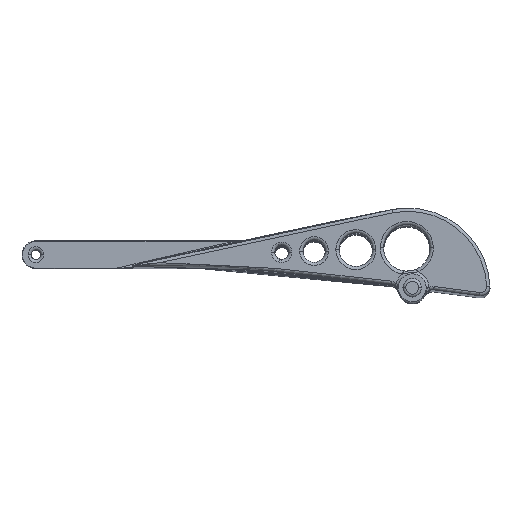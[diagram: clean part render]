
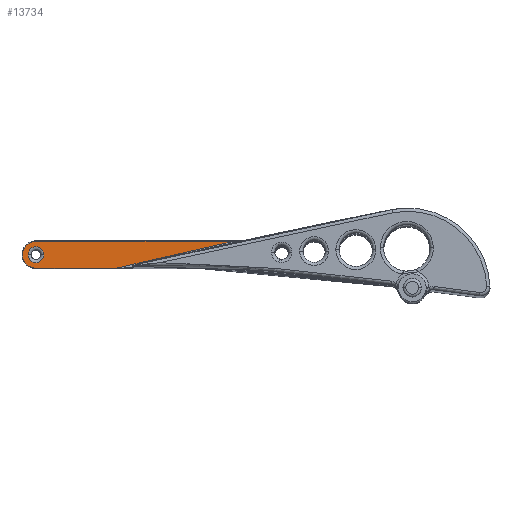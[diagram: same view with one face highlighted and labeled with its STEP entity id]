
A CAD part, top view. The second image highlights one B-rep face of the part: STEP entity #13734.
In plain terms, the highlighted planar face has unit normal (0, 0, 1).
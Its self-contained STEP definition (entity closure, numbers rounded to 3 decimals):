
#28 = DIRECTION ( 'NONE',  ( 1., 0., 0. ) ) ;
#72 = CARTESIAN_POINT ( 'NONE',  ( -1.019, 0.122, 2.5 ) ) ;
#123 = CARTESIAN_POINT ( 'NONE',  ( 13.218, 0.05, 2.5 ) ) ;
#419 = CARTESIAN_POINT ( 'NONE',  ( -10., 1.5, 2.5 ) ) ;
#638 = CARTESIAN_POINT ( 'NONE',  ( 1.228, 0.644, 2.5 ) ) ;
#979 = LINE ( 'NONE', #123, #21741 ) ;
#1006 = AXIS2_PLACEMENT_3D ( 'NONE', #419, #14070, #23141 ) ;
#1166 = CARTESIAN_POINT ( 'NONE',  ( 1.348, 0.672, 2.5 ) ) ;
#1517 = ORIENTED_EDGE ( 'NONE', *, *, #14156, .T. ) ;
#2829 = CARTESIAN_POINT ( 'NONE',  ( 0.629, 0.505, 2.5 ) ) ;
#4534 = AXIS2_PLACEMENT_3D ( 'NONE', #12973, #6259, #26242 ) ;
#4786 = EDGE_CURVE ( 'NONE', #11495, #17718, #16799, .T. ) ;
#4924 = CARTESIAN_POINT ( 'NONE',  ( -0.863, 0.159, 2.5 ) ) ;
#4987 = VECTOR ( 'NONE', #14742, 1000. ) ;
#5223 = EDGE_LOOP ( 'NONE', ( #14738, #14709, #1517, #5788, #26724, #24949 ) ) ;
#5788 = ORIENTED_EDGE ( 'NONE', *, *, #25397, .T. ) ;
#6259 = DIRECTION ( 'NONE',  ( 0., 0., -1. ) ) ;
#7250 = CARTESIAN_POINT ( 'NONE',  ( 0.586, 0.495, 2.5 ) ) ;
#8457 = VERTEX_POINT ( 'NONE', #25531 ) ;
#8623 = CARTESIAN_POINT ( 'NONE',  ( -10., 1.5, 2.5 ) ) ;
#8780 = VERTEX_POINT ( 'NONE', #23185 ) ;
#9349 = DIRECTION ( 'NONE',  ( 0., 0., -1. ) ) ;
#9671 = CARTESIAN_POINT ( 'NONE',  ( 0.869, 0.561, 2.5 ) ) ;
#10593 = VERTEX_POINT ( 'NONE', #16824 ) ;
#11216 = B_SPLINE_CURVE_WITH_KNOTS ( 'NONE', 3,
 ( #16586, #21480, #28511, #14852 ),
 .UNSPECIFIED., .F., .F.,
 ( 4, 4 ),
 ( 0., 0.01 ),
 .UNSPECIFIED. ) ;
#11495 = VERTEX_POINT ( 'NONE', #12209 ) ;
#11712 = AXIS2_PLACEMENT_3D ( 'NONE', #8623, #15293, #26472 ) ;
#12209 = CARTESIAN_POINT ( 'NONE',  ( 11.369, 2.95, 2.5 ) ) ;
#12671 = CARTESIAN_POINT ( 'NONE',  ( 13.218, 2.95, 2.5 ) ) ;
#12973 = CARTESIAN_POINT ( 'NONE',  ( -10., 1.5, 2.5 ) ) ;
#13007 = DIRECTION ( 'NONE',  ( -1., 0., 0. ) ) ;
#13436 = CARTESIAN_POINT ( 'NONE',  ( -10., 2.95, 2.5 ) ) ;
#13734 = ADVANCED_FACE ( 'NONE', ( #19859, #14284 ), #20398, .F. ) ;
#13796 = CARTESIAN_POINT ( 'NONE',  ( 0.988, 0.589, 2.5 ) ) ;
#14070 = DIRECTION ( 'NONE',  ( 0., 0., 1. ) ) ;
#14106 = EDGE_CURVE ( 'NONE', #20011, #8457, #21284, .T. ) ;
#14156 = EDGE_CURVE ( 'NONE', #17718, #10593, #15363, .T. ) ;
#14284 = FACE_OUTER_BOUND ( 'NONE', #5223, .T. ) ;
#14709 = ORIENTED_EDGE ( 'NONE', *, *, #4786, .T. ) ;
#14738 = ORIENTED_EDGE ( 'NONE', *, *, #18872, .T. ) ;
#14742 = DIRECTION ( 'NONE',  ( -1., 0., 0. ) ) ;
#14852 = CARTESIAN_POINT ( 'NONE',  ( 11.369, 2.95, 2.5 ) ) ;
#15010 = EDGE_LOOP ( 'NONE', ( #27005, #21382 ) ) ;
#15244 = B_SPLINE_CURVE_WITH_KNOTS ( 'NONE', 3,
 ( #28006, #15423, #72, #4924, #16096, #20427, #22674, #23064, #7250, #2829, #20619, #9671, #13796, #18585, #638, #20526 ),
 .UNSPECIFIED., .F., .F.,
 ( 4, 3, 3, 3, 3, 4 ),
 ( 0., 0.001, 0.002, 0.002, 0.003, 0.003 ),
 .UNSPECIFIED. ) ;
#15293 = DIRECTION ( 'NONE',  ( 0., 0., 1. ) ) ;
#15363 = CIRCLE ( 'NONE', #11712, 1.45 ) ;
#15423 = CARTESIAN_POINT ( 'NONE',  ( -1.174, 0.086, 2.5 ) ) ;
#15452 = CARTESIAN_POINT ( 'NONE',  ( -1.33, 0.05, 2.5 ) ) ;
#15602 = EDGE_CURVE ( 'NONE', #16720, #25550, #15244, .T. ) ;
#16096 = CARTESIAN_POINT ( 'NONE',  ( -0.409, 0.264, 2.5 ) ) ;
#16514 = EDGE_CURVE ( 'NONE', #8457, #20011, #22248, .T. ) ;
#16586 = CARTESIAN_POINT ( 'NONE',  ( 1.348, 0.672, 2.5 ) ) ;
#16720 = VERTEX_POINT ( 'NONE', #15452 ) ;
#16799 = LINE ( 'NONE', #12671, #4987 ) ;
#16824 = CARTESIAN_POINT ( 'NONE',  ( -11.45, 1.5, 2.5 ) ) ;
#17718 = VERTEX_POINT ( 'NONE', #13436 ) ;
#17911 = CIRCLE ( 'NONE', #1006, 1.45 ) ;
#18585 = CARTESIAN_POINT ( 'NONE',  ( 1.108, 0.617, 2.5 ) ) ;
#18872 = EDGE_CURVE ( 'NONE', #25550, #11495, #11216, .T. ) ;
#19859 = FACE_BOUND ( 'NONE', #15010, .T. ) ;
#20011 = VERTEX_POINT ( 'NONE', #20617 ) ;
#20398 = PLANE ( 'NONE',  #21217 ) ;
#20427 = CARTESIAN_POINT ( 'NONE',  ( 0.046, 0.37, 2.5 ) ) ;
#20526 = CARTESIAN_POINT ( 'NONE',  ( 1.348, 0.672, 2.5 ) ) ;
#20617 = CARTESIAN_POINT ( 'NONE',  ( -9.15, 1.5, 2.5 ) ) ;
#20619 = CARTESIAN_POINT ( 'NONE',  ( 0.749, 0.533, 2.5 ) ) ;
#20648 = AXIS2_PLACEMENT_3D ( 'NONE', #24116, #26375, #13007 ) ;
#21217 = AXIS2_PLACEMENT_3D ( 'NONE', #22550, #9349, #24821 ) ;
#21284 = CIRCLE ( 'NONE', #20648, 0.85 ) ;
#21382 = ORIENTED_EDGE ( 'NONE', *, *, #14106, .T. ) ;
#21480 = CARTESIAN_POINT ( 'NONE',  ( 4.685, 1.445, 2.5 ) ) ;
#21741 = VECTOR ( 'NONE', #28, 1000. ) ;
#22248 = CIRCLE ( 'NONE', #4534, 0.85 ) ;
#22550 = CARTESIAN_POINT ( 'NONE',  ( 13.218, 1.5, 2.5 ) ) ;
#22674 = CARTESIAN_POINT ( 'NONE',  ( 0.5, 0.476, 2.5 ) ) ;
#23064 = CARTESIAN_POINT ( 'NONE',  ( 0.543, 0.486, 2.5 ) ) ;
#23141 = DIRECTION ( 'NONE',  ( -1., 0., 0. ) ) ;
#23185 = CARTESIAN_POINT ( 'NONE',  ( -10., 0.05, 2.5 ) ) ;
#24116 = CARTESIAN_POINT ( 'NONE',  ( -10., 1.5, 2.5 ) ) ;
#24821 = DIRECTION ( 'NONE',  ( -1., 0., 0. ) ) ;
#24949 = ORIENTED_EDGE ( 'NONE', *, *, #15602, .T. ) ;
#25171 = EDGE_CURVE ( 'NONE', #8780, #16720, #979, .T. ) ;
#25397 = EDGE_CURVE ( 'NONE', #10593, #8780, #17911, .T. ) ;
#25531 = CARTESIAN_POINT ( 'NONE',  ( -10.85, 1.5, 2.5 ) ) ;
#25550 = VERTEX_POINT ( 'NONE', #1166 ) ;
#26242 = DIRECTION ( 'NONE',  ( -1., 0., 0. ) ) ;
#26375 = DIRECTION ( 'NONE',  ( 0., 0., -1. ) ) ;
#26472 = DIRECTION ( 'NONE',  ( -1., 0., 0. ) ) ;
#26724 = ORIENTED_EDGE ( 'NONE', *, *, #25171, .T. ) ;
#27005 = ORIENTED_EDGE ( 'NONE', *, *, #16514, .T. ) ;
#28006 = CARTESIAN_POINT ( 'NONE',  ( -1.33, 0.05, 2.5 ) ) ;
#28511 = CARTESIAN_POINT ( 'NONE',  ( 8.025, 2.207, 2.5 ) ) ;
